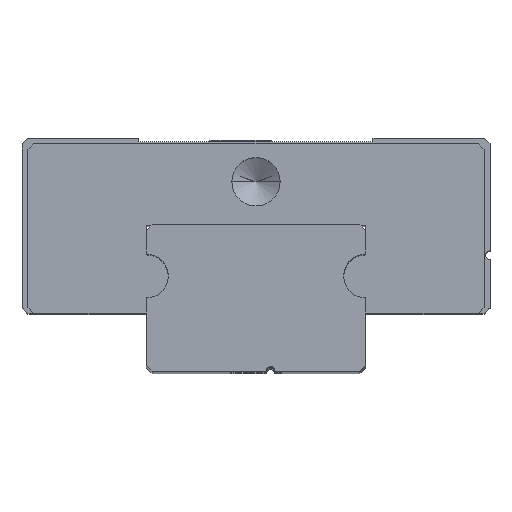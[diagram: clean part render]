
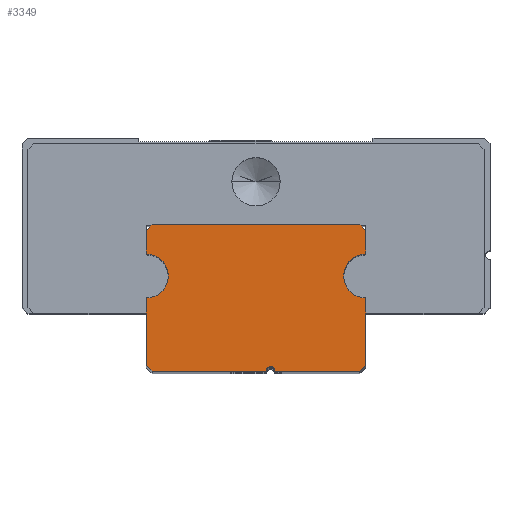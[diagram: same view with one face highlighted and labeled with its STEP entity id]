
A CAD part, top view. The second image highlights one B-rep face of the part: STEP entity #3349.
In plain terms, the highlighted planar face has unit normal (0, 0, 1).
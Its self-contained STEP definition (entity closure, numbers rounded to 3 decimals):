
#84 = DIRECTION ( 'NONE',  ( -1., 0., 0. ) ) ;
#194 = LINE ( 'NONE', #3962, #6939 ) ;
#220 = DIRECTION ( 'NONE',  ( 0., -1., 0. ) ) ;
#305 = VERTEX_POINT ( 'NONE', #5851 ) ;
#477 = VECTOR ( 'NONE', #4458, 1000. ) ;
#541 = EDGE_CURVE ( 'NONE', #3270, #1689, #6363, .T. ) ;
#553 = CARTESIAN_POINT ( 'NONE',  ( 1., 0., 55. ) ) ;
#591 = DIRECTION ( 'NONE',  ( 0., 0., -1. ) ) ;
#679 = LINE ( 'NONE', #553, #2906 ) ;
#762 = CARTESIAN_POINT ( 'NONE',  ( -7.5, 6.5, 55. ) ) ;
#767 = LINE ( 'NONE', #7031, #3903 ) ;
#1046 = PLANE ( 'NONE',  #5613 ) ;
#1091 = DIRECTION ( 'NONE',  ( 0., 1., 0. ) ) ;
#1125 = CARTESIAN_POINT ( 'NONE',  ( 7.5, 0., 55. ) ) ;
#1227 = EDGE_CURVE ( 'NONE', #9297, #9480, #11206, .T. ) ;
#1254 = VERTEX_POINT ( 'NONE', #4539 ) ;
#1454 = LINE ( 'NONE', #7672, #5152 ) ;
#1525 = EDGE_CURVE ( 'NONE', #1254, #9054, #1702, .T. ) ;
#1531 = VECTOR ( 'NONE', #220, 1000. ) ;
#1548 = VERTEX_POINT ( 'NONE', #7857 ) ;
#1643 = CARTESIAN_POINT ( 'NONE',  ( 1.3, 0., 55. ) ) ;
#1689 = VERTEX_POINT ( 'NONE', #7247 ) ;
#1695 = DIRECTION ( 'NONE',  ( 0., 1., 0. ) ) ;
#1702 = LINE ( 'NONE', #6107, #4130 ) ;
#1951 = ORIENTED_EDGE ( 'NONE', *, *, #6024, .T. ) ;
#1995 = CIRCLE ( 'NONE', #8671, 1.5 ) ;
#2002 = DIRECTION ( 'NONE',  ( 0., 0., 1. ) ) ;
#2131 = DIRECTION ( 'NONE',  ( 0., 0., 1. ) ) ;
#2183 = CARTESIAN_POINT ( 'NONE',  ( 1., 0., 55. ) ) ;
#2256 = ORIENTED_EDGE ( 'NONE', *, *, #2614, .T. ) ;
#2306 = DIRECTION ( 'NONE',  ( -1., 0., 0. ) ) ;
#2404 = EDGE_CURVE ( 'NONE', #7967, #9297, #6290, .T. ) ;
#2544 = CARTESIAN_POINT ( 'NONE',  ( -7.5, 0., 55. ) ) ;
#2552 = EDGE_CURVE ( 'NONE', #4288, #8652, #6023, .T. ) ;
#2562 = ORIENTED_EDGE ( 'NONE', *, *, #2404, .F. ) ;
#2579 = DIRECTION ( 'NONE',  ( -1., 0., 0. ) ) ;
#2614 = EDGE_CURVE ( 'NONE', #7820, #9054, #767, .T. ) ;
#2651 = CARTESIAN_POINT ( 'NONE',  ( 7.1, 0., 55. ) ) ;
#2714 = CARTESIAN_POINT ( 'NONE',  ( 7.5, 8., 55. ) ) ;
#2868 = ORIENTED_EDGE ( 'NONE', *, *, #10169, .F. ) ;
#2871 = CARTESIAN_POINT ( 'NONE',  ( 7.1, 10., 55. ) ) ;
#2906 = VECTOR ( 'NONE', #8114, 1000. ) ;
#2952 = CARTESIAN_POINT ( 'NONE',  ( -7.5, 5., 55. ) ) ;
#3270 = VERTEX_POINT ( 'NONE', #2871 ) ;
#3349 = ADVANCED_FACE ( 'NONE', ( #7376 ), #1046, .F. ) ;
#3394 = EDGE_CURVE ( 'NONE', #1548, #1254, #1995, .T. ) ;
#3547 = CARTESIAN_POINT ( 'NONE',  ( -7.1, 0., 55. ) ) ;
#3592 = CARTESIAN_POINT ( 'NONE',  ( 0.7, 0., 55. ) ) ;
#3639 = CIRCLE ( 'NONE', #7260, 0.3 ) ;
#3793 = ORIENTED_EDGE ( 'NONE', *, *, #541, .T. ) ;
#3903 = VECTOR ( 'NONE', #9707, 1000. ) ;
#3952 = ORIENTED_EDGE ( 'NONE', *, *, #8621, .T. ) ;
#3959 = CARTESIAN_POINT ( 'NONE',  ( 7.5, 6.5, 55. ) ) ;
#3962 = CARTESIAN_POINT ( 'NONE',  ( 7.1, 10., 55. ) ) ;
#4118 = EDGE_CURVE ( 'NONE', #305, #3270, #194, .T. ) ;
#4130 = VECTOR ( 'NONE', #10741, 1000. ) ;
#4241 = EDGE_LOOP ( 'NONE', ( #2868, #2256, #7533, #10813, #10878, #7094, #9221, #3793, #3952, #10979, #5715, #2562, #11463, #4917, #1951 ) ) ;
#4288 = VERTEX_POINT ( 'NONE', #3592 ) ;
#4356 = EDGE_CURVE ( 'NONE', #9480, #8407, #10793, .T. ) ;
#4360 = CARTESIAN_POINT ( 'NONE',  ( 1., 0., 55. ) ) ;
#4458 = DIRECTION ( 'NONE',  ( -1., 0., 0. ) ) ;
#4539 = CARTESIAN_POINT ( 'NONE',  ( 7.5, 5., 55. ) ) ;
#4800 = DIRECTION ( 'NONE',  ( 0., -1., 0. ) ) ;
#4917 = ORIENTED_EDGE ( 'NONE', *, *, #2552, .F. ) ;
#5061 = CARTESIAN_POINT ( 'NONE',  ( 7.5, 6.5, 55. ) ) ;
#5152 = VECTOR ( 'NONE', #9726, 1000. ) ;
#5155 = EDGE_CURVE ( 'NONE', #305, #5761, #6784, .T. ) ;
#5319 = CARTESIAN_POINT ( 'NONE',  ( 1., 0., 55. ) ) ;
#5448 = CARTESIAN_POINT ( 'NONE',  ( -7.5, 0.4, 55. ) ) ;
#5576 = AXIS2_PLACEMENT_3D ( 'NONE', #5061, #2131, #2306 ) ;
#5613 = AXIS2_PLACEMENT_3D ( 'NONE', #2183, #8280, #4800 ) ;
#5715 = ORIENTED_EDGE ( 'NONE', *, *, #1227, .F. ) ;
#5719 = VECTOR ( 'NONE', #1695, 1000. ) ;
#5761 = VERTEX_POINT ( 'NONE', #2714 ) ;
#5851 = CARTESIAN_POINT ( 'NONE',  ( 7.5, 9.6, 55. ) ) ;
#6023 = LINE ( 'NONE', #5319, #10795 ) ;
#6024 = EDGE_CURVE ( 'NONE', #4288, #10994, #3639, .T. ) ;
#6026 = AXIS2_PLACEMENT_3D ( 'NONE', #762, #10069, #7165 ) ;
#6107 = CARTESIAN_POINT ( 'NONE',  ( 7.5, 0., 55. ) ) ;
#6148 = DIRECTION ( 'NONE',  ( -1., 0., 0. ) ) ;
#6290 = LINE ( 'NONE', #2544, #7526 ) ;
#6363 = LINE ( 'NONE', #11688, #477 ) ;
#6784 = LINE ( 'NONE', #1125, #1531 ) ;
#6918 = VECTOR ( 'NONE', #11795, 1000. ) ;
#6939 = VECTOR ( 'NONE', #7609, 1000. ) ;
#7031 = CARTESIAN_POINT ( 'NONE',  ( 7.5, 0.4, 55. ) ) ;
#7094 = ORIENTED_EDGE ( 'NONE', *, *, #5155, .F. ) ;
#7165 = DIRECTION ( 'NONE',  ( -1., 0., 0. ) ) ;
#7247 = CARTESIAN_POINT ( 'NONE',  ( -7.1, 10., 55. ) ) ;
#7260 = AXIS2_PLACEMENT_3D ( 'NONE', #4360, #591, #2579 ) ;
#7376 = FACE_OUTER_BOUND ( 'NONE', #4241, .T. ) ;
#7526 = VECTOR ( 'NONE', #1091, 1000. ) ;
#7533 = ORIENTED_EDGE ( 'NONE', *, *, #1525, .F. ) ;
#7609 = DIRECTION ( 'NONE',  ( -0.707, 0.707, 0. ) ) ;
#7672 = CARTESIAN_POINT ( 'NONE',  ( -7.5, 9.6, 55. ) ) ;
#7793 = EDGE_CURVE ( 'NONE', #7967, #8652, #8157, .T. ) ;
#7820 = VERTEX_POINT ( 'NONE', #2651 ) ;
#7857 = CARTESIAN_POINT ( 'NONE',  ( 6., 6.5, 55. ) ) ;
#7967 = VERTEX_POINT ( 'NONE', #5448 ) ;
#8114 = DIRECTION ( 'NONE',  ( -1., 0., 0. ) ) ;
#8157 = LINE ( 'NONE', #3547, #6918 ) ;
#8280 = DIRECTION ( 'NONE',  ( 0., 0., -1. ) ) ;
#8407 = VERTEX_POINT ( 'NONE', #9857 ) ;
#8621 = EDGE_CURVE ( 'NONE', #1689, #8407, #1454, .T. ) ;
#8652 = VERTEX_POINT ( 'NONE', #10543 ) ;
#8671 = AXIS2_PLACEMENT_3D ( 'NONE', #3959, #2002, #84 ) ;
#9054 = VERTEX_POINT ( 'NONE', #11644 ) ;
#9221 = ORIENTED_EDGE ( 'NONE', *, *, #4118, .T. ) ;
#9297 = VERTEX_POINT ( 'NONE', #2952 ) ;
#9418 = CIRCLE ( 'NONE', #5576, 1.5 ) ;
#9480 = VERTEX_POINT ( 'NONE', #11247 ) ;
#9707 = DIRECTION ( 'NONE',  ( 0.707, 0.707, 0. ) ) ;
#9726 = DIRECTION ( 'NONE',  ( -0.707, -0.707, 0. ) ) ;
#9857 = CARTESIAN_POINT ( 'NONE',  ( -7.5, 9.6, 55. ) ) ;
#9910 = CARTESIAN_POINT ( 'NONE',  ( -7.5, 0., 55. ) ) ;
#10069 = DIRECTION ( 'NONE',  ( 0., 0., 1. ) ) ;
#10107 = EDGE_CURVE ( 'NONE', #5761, #1548, #9418, .T. ) ;
#10169 = EDGE_CURVE ( 'NONE', #7820, #10994, #679, .T. ) ;
#10543 = CARTESIAN_POINT ( 'NONE',  ( -7.1, 0., 55. ) ) ;
#10741 = DIRECTION ( 'NONE',  ( 0., -1., 0. ) ) ;
#10793 = LINE ( 'NONE', #9910, #5719 ) ;
#10795 = VECTOR ( 'NONE', #6148, 1000. ) ;
#10813 = ORIENTED_EDGE ( 'NONE', *, *, #3394, .F. ) ;
#10878 = ORIENTED_EDGE ( 'NONE', *, *, #10107, .F. ) ;
#10979 = ORIENTED_EDGE ( 'NONE', *, *, #4356, .F. ) ;
#10994 = VERTEX_POINT ( 'NONE', #1643 ) ;
#11206 = CIRCLE ( 'NONE', #6026, 1.5 ) ;
#11247 = CARTESIAN_POINT ( 'NONE',  ( -7.5, 8., 55. ) ) ;
#11463 = ORIENTED_EDGE ( 'NONE', *, *, #7793, .T. ) ;
#11644 = CARTESIAN_POINT ( 'NONE',  ( 7.5, 0.4, 55. ) ) ;
#11688 = CARTESIAN_POINT ( 'NONE',  ( 7.5, 10., 55. ) ) ;
#11795 = DIRECTION ( 'NONE',  ( 0.707, -0.707, 0. ) ) ;
